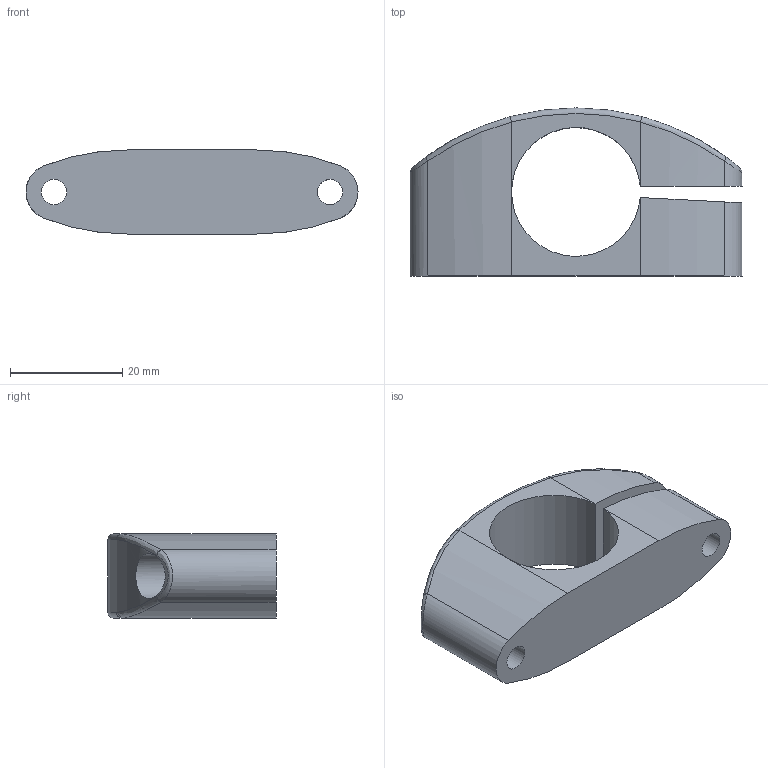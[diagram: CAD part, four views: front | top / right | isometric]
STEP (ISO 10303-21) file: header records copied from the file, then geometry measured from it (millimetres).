
FILE_DESCRIPTION(/* description */ (''),/* implementation_level */ '2;1');
FILE_NAME(/* name */ 'G:/Shared drives/PARTS/wl-52xxx/wl-52062_locator_a1_mount/rev1/WL-52062-1_Locator-A1_Mount.step',/* time_stamp */ '2020-10-30T09:33:28+01:00',/* author */ (''),/* organization */ (''),/* preprocessor_version */ 'ST-DEVELOPER v18.1',/* originating_system */ 'Autodesk Translation Framework v9.3.0.1241',/* authorisation */ '');
FILE_SCHEMA (('AUTOMOTIVE_DESIGN { 1 0 10303 214 3 1 1 }'));
Length unit declared in the file: millimetre
Products named in the file (1): WL-52062-1_Locator-A1_Mount
Bounding box: 59.25 x 30 x 15 mm (x, y, z)
Volume: 13448.1 mm3; surface area: 6090.1 mm2
Topology: 1 solids, 1 shells, 33 faces, 77 edges, 48 vertices
Faces by surface type: cylinder 16, plane 9, bspline 6, torus 2
Full cylindrical faces by diameter (mm): 4.5 x3, 8 x2
Entity records: 1263 total; most frequent: CARTESIAN_POINT 480, DIRECTION 155, ORIENTED_EDGE 154, EDGE_CURVE 77, AXIS2_PLACEMENT_3D 64, VERTEX_POINT 48, EDGE_LOOP 41, FACE_OUTER_BOUND 33
